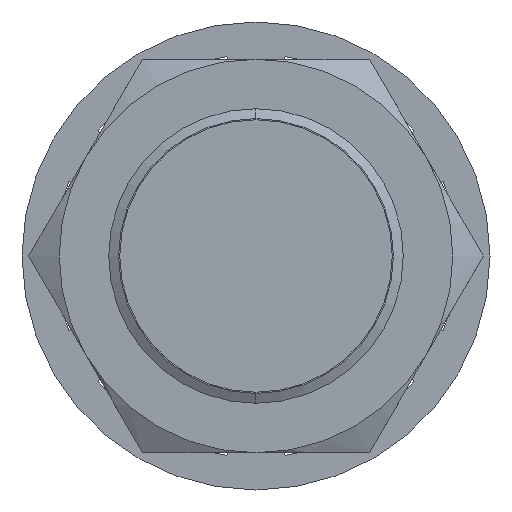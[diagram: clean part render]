
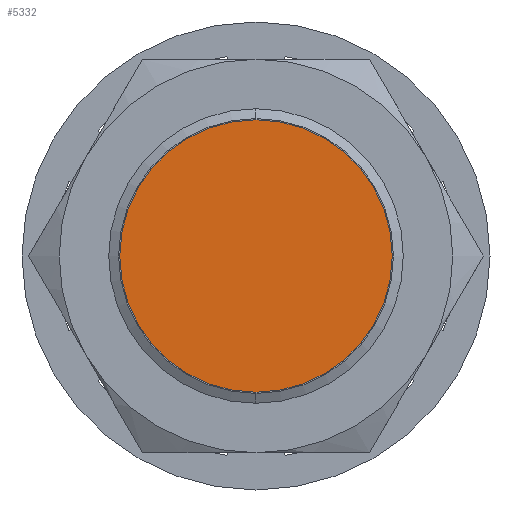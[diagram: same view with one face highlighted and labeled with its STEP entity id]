
A CAD part, left-side view. The second image highlights one B-rep face of the part: STEP entity #5332.
In plain terms, the highlighted planar face has unit normal (-1, 0, 0).
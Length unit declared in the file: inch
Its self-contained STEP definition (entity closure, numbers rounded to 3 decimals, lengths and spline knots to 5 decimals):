
#16804 = VERTEX_POINT ( 'NONE', #9984 ) ;
#17104 = FACE_OUTER_BOUND ( 'NONE', #5046, .T. ) ;
#17105 = PLANE ( 'NONE',  #17106 ) ;
#17106 = AXIS2_PLACEMENT_3D ( 'NONE', #17107, #17108, #17109 ) ;
#17107 = CARTESIAN_POINT ( 'NONE',  ( -0.43, 0., 0. ) ) ;
#17108 = DIRECTION ( 'NONE',  ( -1., 0., 0. ) ) ;
#17109 = DIRECTION ( 'NONE',  ( 0., 0., 1. ) ) ;
#2345 = CARTESIAN_POINT ( 'NONE',  ( -0.43, 0., 0.3275 ) ) ;
#2462 = CIRCLE ( 'NONE', #2472, 0.3275 ) ;
#2472 = AXIS2_PLACEMENT_3D ( 'NONE', #2473, #2474, #2475 ) ;
#2473 = CARTESIAN_POINT ( 'NONE',  ( -0.43, 0., 0. ) ) ;
#2474 = DIRECTION ( 'NONE',  ( 1., 0., 0. ) ) ;
#2475 = DIRECTION ( 'NONE',  ( 0., 0., 1. ) ) ;
#4624 = ORIENTED_EDGE ( 'NONE', *, *, #12835, .F. ) ;
#5046 = EDGE_LOOP ( 'NONE', ( #4624, #12671 ) ) ;
#5332 = ADVANCED_FACE ( 'NONE', ( #17104 ), #17105, .T. ) ;
#5864 = CIRCLE ( 'NONE', #5865, 0.3275 ) ;
#5865 = AXIS2_PLACEMENT_3D ( 'NONE', #5866, #5867, #5874 ) ;
#5866 = CARTESIAN_POINT ( 'NONE',  ( -0.43, 0., 0. ) ) ;
#5867 = DIRECTION ( 'NONE',  ( 1., 0., 0. ) ) ;
#5874 = DIRECTION ( 'NONE',  ( 0., 0., 1. ) ) ;
#9213 = VERTEX_POINT ( 'NONE', #2345 ) ;
#9456 = EDGE_CURVE ( 'NONE', #16804, #9213, #2462, .T. ) ;
#9984 = CARTESIAN_POINT ( 'NONE',  ( -0.43, 0., -0.3275 ) ) ;
#12671 = ORIENTED_EDGE ( 'NONE', *, *, #9456, .F. ) ;
#12835 = EDGE_CURVE ( 'NONE', #9213, #16804, #5864, .T. ) ;
